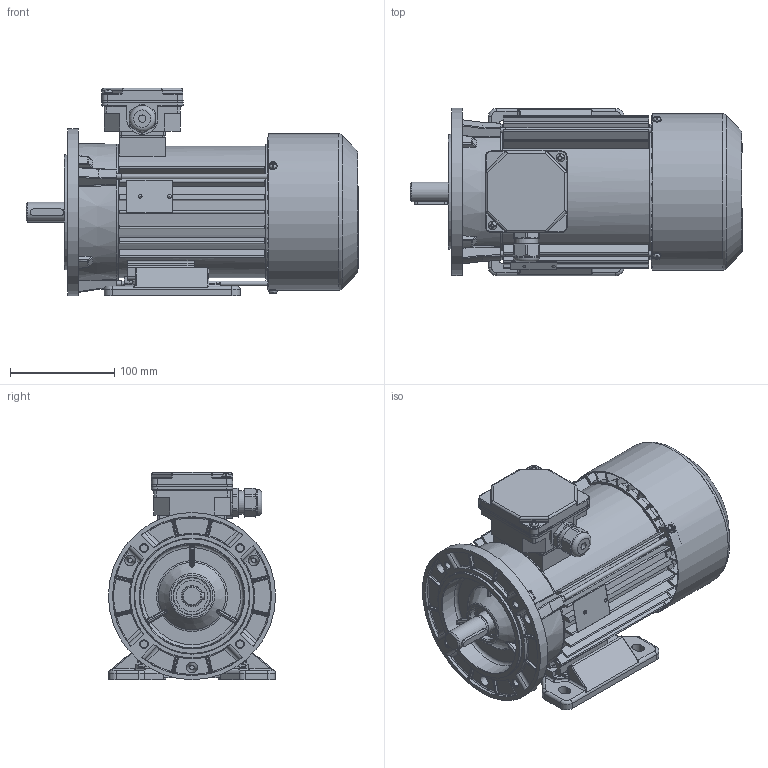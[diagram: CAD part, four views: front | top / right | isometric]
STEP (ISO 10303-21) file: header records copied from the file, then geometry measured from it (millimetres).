
FILE_DESCRIPTION( ( 'Unknown' ), '1' );
FILE_NAME( 'G:/Poczta Tk-1/STP/w.m.80/Sh80/SLh80x-.D1.stp', 'Unknown', ( 'K. Szlosek' ), ( 'BESEL S.A.' ), 'PSStep 17.0.49', 'Unknown', ' ' );
FILE_SCHEMA( ( 'AUTOMOTIVE_DESIGN { 1 0 10303 214 1 1 1 1 }' ) );
Length unit declared in the file: millimetre
Products named in the file (30): skrznka zaciskowa trójfazowa ; K4-2820 Uszczelka nr 2 Sh71,80; Dławnica M20x1,5; K2-0859 Podstawa skrzynki 6-cio zaciskowej; K2-0860 Pokrywka skrzynki zaciskowej; Assem1; K1-1257 Kadłub S(E,M)h80-C i D; Wkręt samogwintujący M4x16; Wkręt samogwintujący M4x10; K4-2320 Uszczelka nr 1 Sh71,80; Wpust A6x6x32; K2-1715 Przewietrznik; Nitokołek A 2x6; Łożysko 6204; Śruba ściągająca E_M5x168; Tabliczka znamionowa 32x44; K3-6857 Tarcza łożyskowa P S(E,M)h80-B,D; K3-2964 Osłona przewietrznika Sh80,90; K3-5645 wał S(E,M)h80-.D; K1-1259 Tarcza kołnierzowa 80 B14_1 ; K1-0437 Łapa Sh80-.. 
Assembly tree (45 placements, depth 3):
  Assem1
    K1-1257 Kadłub S(E,M)h80-C i D
    Wkręt samogwintujący M4x16  x2
    Wkręt samogwintujący M4x10  x3
    K4-2320 Uszczelka nr 1 Sh71,80
    Wpust A6x6x32
    K2-1715 Przewietrznik
    Nitokołek A 2x6  x2
    Łożysko 6204  x2
    Łożysko 6204  x2
    Łożysko 6204  x2
    Łożysko 6204  x2
    Łożysko 6204  x2
    Łożysko 6204  x2
    Łożysko 6204  x2
    Łożysko 6204  x2
    Łożysko 6204  x2
    Łożysko 6204  x2
    Śruba ściągająca E_M5x168  x3
    Tabliczka znamionowa 32x44
    K3-6857 Tarcza łożyskowa P S(E,M)h80-B,D
    K3-2964 Osłona przewietrznika Sh80,90
    K3-5645 wał S(E,M)h80-.D
    K1-1259 Tarcza kołnierzowa 80 B14_1 
    K1-0437 Łapa Sh80-.. 
    skrznka zaciskowa trójfazowa 
      K4-2820 Uszczelka nr 2 Sh71,80
      Dławnica M20x1,5
      K2-0859 Podstawa skrzynki 6-cio zaciskowej
      K2-0860 Pokrywka skrzynki zaciskowej
Bounding box: 317.8 x 160 x 198.5 mm (x, y, z)
Volume: 1165023.5 mm3; surface area: 649191 mm2
Topology: 44 solids, 60 shells, 3153 faces, 8481 edges, 5426 vertices
Faces by surface type: plane 1372, cylinder 944, bspline 375, torus 232, cone 186, sphere 44
Full cylindrical faces by diameter (mm): 2 x2, 2.4 x2, 3.7 x11, 4 x6, 4.2 x3, 4.5 x1, 4.6 x3, 4.8 x4, 5 x7, 5.5 x3, 6.5 x4, 6.8 x4, 7 x1, 8 x9, 18.376 x1, 18.38 x1, 18.6 x1, 19 x1, 19.3 x1, 19.5 x2, 19.6 x2, 19.9 x1, 20 x5, 20.4 x2, 22.3 x1, 25 x1, 25.5 x1, 25.6 x1, 26 x4, 28.802 x4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
Entity records: 184114 total; most frequent: CARTESIAN_POINT 88930, ORIENTED_EDGE 15440, DIRECTION 14316, EDGE_CURVE 7720, AXIS2_PLACEMENT_3D 5384, VERTEX_POINT 5078, LINE 3548, VECTOR 3548
